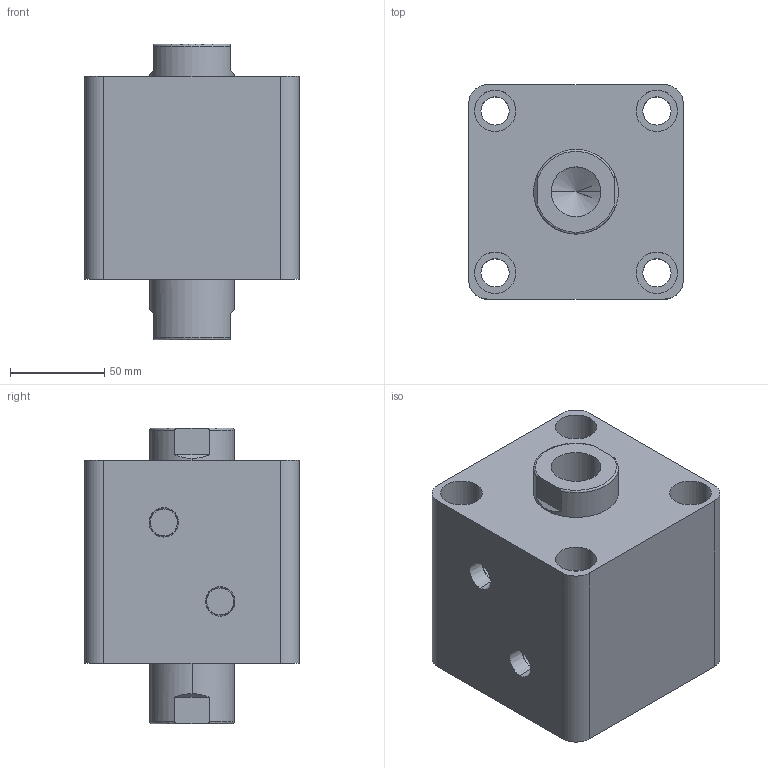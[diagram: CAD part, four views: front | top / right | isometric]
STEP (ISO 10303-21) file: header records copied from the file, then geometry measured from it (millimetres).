
FILE_DESCRIPTION (( 'STEP AP203' ), '1' );
FILE_NAME ('HTB-SW80-15N.STEP', '2019-10-07T10:19:55', ( '微软用户' ), ( '微软中国' ), 'SwSTEP 2.0', 'SolidWorks 2012', '' );
FILE_SCHEMA (( 'CONFIG_CONTROL_DESIGN' ));
Length unit declared in the file: millimetre
Products named in the file (3): HTB-SW80-15N; HTB-SW80-15N活塞杆; HTB-SW80-15掛极
Assembly tree (2 placements, depth 2):
  HTB-SW80-15N
    HTB-SW80-15掛极
    HTB-SW80-15N活塞杆
Bounding box: 114 x 114 x 157 mm (x, y, z)
Volume: 1283869.7 mm3; surface area: 159745.4 mm2
Topology: 2 solids, 2 shells, 100 faces, 228 edges, 146 vertices
Faces by surface type: cylinder 48, plane 32, torus 12, cone 8
Entity records: 3237 total; most frequent: CARTESIAN_POINT 595, DIRECTION 542, ORIENTED_EDGE 448, AXIS2_PLACEMENT_3D 229, EDGE_CURVE 224, VERTEX_POINT 146, EDGE_LOOP 128, CIRCLE 124
